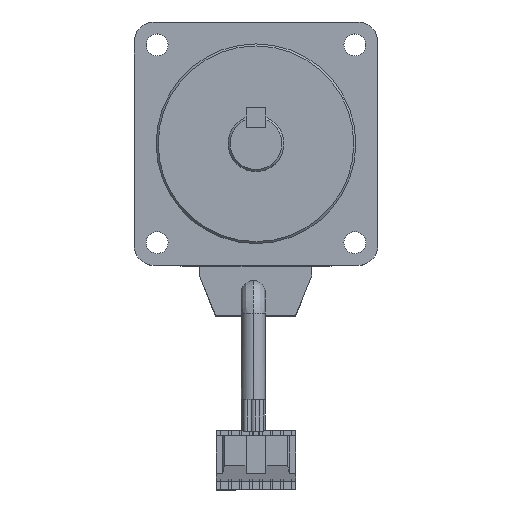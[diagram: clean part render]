
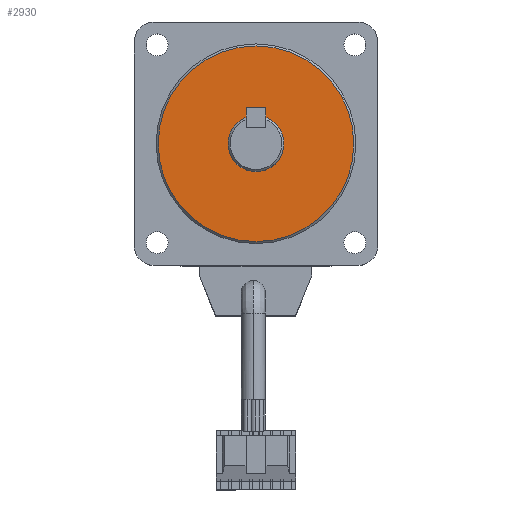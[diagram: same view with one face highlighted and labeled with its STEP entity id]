
A CAD part, top view. The second image highlights one B-rep face of the part: STEP entity #2930.
In plain terms, the highlighted planar face has unit normal (0, 0, 1).
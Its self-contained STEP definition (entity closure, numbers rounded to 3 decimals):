
#133 = ORIENTED_EDGE ( 'NONE', *, *, #12930, .F. ) ;
#360 = AXIS2_PLACEMENT_3D ( 'NONE', #10345, #2508, #16304 ) ;
#456 = DIRECTION ( 'NONE',  ( 0., 0., 1. ) ) ;
#739 = DIRECTION ( 'NONE',  ( 1., 0., 0. ) ) ;
#1023 = CIRCLE ( 'NONE', #12036, 24.5 ) ;
#1778 = ORIENTED_EDGE ( 'NONE', *, *, #14184, .F. ) ;
#2056 = FACE_OUTER_BOUND ( 'NONE', #11560, .T. ) ;
#2508 = DIRECTION ( 'NONE',  ( 0., 0., 1. ) ) ;
#2789 = VERTEX_POINT ( 'NONE', #21524 ) ;
#2930 = ADVANCED_FACE ( 'NONE', ( #2056, #22374 ), #20157, .T. ) ;
#3632 = AXIS2_PLACEMENT_3D ( 'NONE', #16482, #4679, #18476 ) ;
#3737 = EDGE_LOOP ( 'NONE', ( #133, #1778 ) ) ;
#4679 = DIRECTION ( 'NONE',  ( 0., 0., 1. ) ) ;
#6399 = ORIENTED_EDGE ( 'NONE', *, *, #12175, .T. ) ;
#6499 = ORIENTED_EDGE ( 'NONE', *, *, #20385, .T. ) ;
#6782 = CARTESIAN_POINT ( 'NONE',  ( 0., 0., 10. ) ) ;
#8763 = DIRECTION ( 'NONE',  ( 1., 0., 0. ) ) ;
#9866 = AXIS2_PLACEMENT_3D ( 'NONE', #12260, #456, #14260 ) ;
#10345 = CARTESIAN_POINT ( 'NONE',  ( 0., 0., 10. ) ) ;
#11112 = VERTEX_POINT ( 'NONE', #19423 ) ;
#11560 = EDGE_LOOP ( 'NONE', ( #6399, #6499 ) ) ;
#12019 = CARTESIAN_POINT ( 'NONE',  ( 24.5, 0., 10. ) ) ;
#12036 = AXIS2_PLACEMENT_3D ( 'NONE', #6782, #20540, #8763 ) ;
#12175 = EDGE_CURVE ( 'NONE', #2789, #12590, #1023, .T. ) ;
#12260 = CARTESIAN_POINT ( 'NONE',  ( 0., 0., 10. ) ) ;
#12551 = DIRECTION ( 'NONE',  ( 0., 0., 1. ) ) ;
#12590 = VERTEX_POINT ( 'NONE', #12019 ) ;
#12930 = EDGE_CURVE ( 'NONE', #11112, #15088, #14912, .T. ) ;
#14184 = EDGE_CURVE ( 'NONE', #15088, #11112, #20985, .T. ) ;
#14260 = DIRECTION ( 'NONE',  ( 1., 0., 0. ) ) ;
#14912 = CIRCLE ( 'NONE', #15829, 7. ) ;
#15088 = VERTEX_POINT ( 'NONE', #23540 ) ;
#15829 = AXIS2_PLACEMENT_3D ( 'NONE', #24321, #12551, #739 ) ;
#16304 = DIRECTION ( 'NONE',  ( 1., 0., 0. ) ) ;
#16482 = CARTESIAN_POINT ( 'NONE',  ( 0., 0., 10. ) ) ;
#18476 = DIRECTION ( 'NONE',  ( 1., 0., 0. ) ) ;
#18826 = CIRCLE ( 'NONE', #9866, 24.5 ) ;
#19423 = CARTESIAN_POINT ( 'NONE',  ( -7., 0., 10. ) ) ;
#20157 = PLANE ( 'NONE',  #360 ) ;
#20385 = EDGE_CURVE ( 'NONE', #12590, #2789, #18826, .T. ) ;
#20540 = DIRECTION ( 'NONE',  ( 0., 0., 1. ) ) ;
#20985 = CIRCLE ( 'NONE', #3632, 7. ) ;
#21524 = CARTESIAN_POINT ( 'NONE',  ( -24.5, 0., 10. ) ) ;
#22374 = FACE_BOUND ( 'NONE', #3737, .T. ) ;
#23540 = CARTESIAN_POINT ( 'NONE',  ( 7., 0., 10. ) ) ;
#24321 = CARTESIAN_POINT ( 'NONE',  ( 0., 0., 10. ) ) ;
